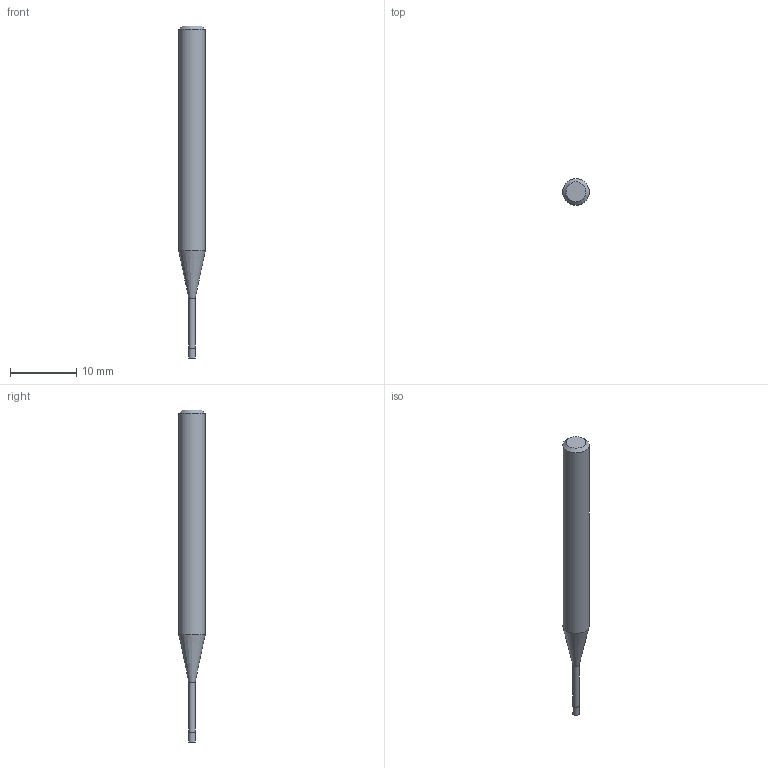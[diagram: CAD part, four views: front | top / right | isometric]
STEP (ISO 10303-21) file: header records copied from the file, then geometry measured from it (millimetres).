
FILE_DESCRIPTION((''),'2;1');
FILE_NAME('C:\Users\nsx150\AppData\Local\Temp\Mastercam 2021\17T8Q8S9EB\TEMP.step','2021-04-21T14:25:52',(''),(''),'STEP Write','Mastercam 2021 ... CNC Software, Inc.','');
FILE_SCHEMA(('AUTOMOTIVE_DESIGN'));
Length unit declared in the file: millimetre
Products named in the file (1): None
Bounding box: 4 x 4 x 50 mm (x, y, z)
Volume: 469 mm3; surface area: 520 mm2
Topology: 2 solids, 2 shells, 9 faces, 12 edges, 7 vertices
Faces by surface type: plane 4, cylinder 3, cone 2
Full cylindrical faces by diameter (mm): 0.95 x1, 1 x1, 4 x1
Entity records: 211 total; most frequent: DIRECTION 36, CARTESIAN_POINT 25, AXIS2_PLACEMENT_3D 18, ORIENTED_EDGE 14, EDGE_LOOP 14, STYLED_ITEM 12, ADVANCED_FACE 9, FACE_BOUND 8
